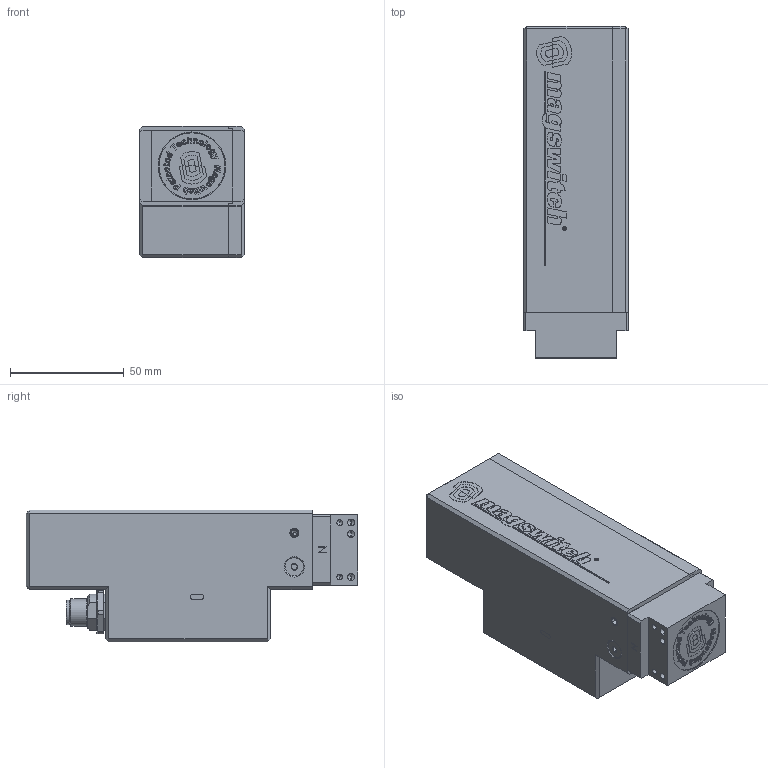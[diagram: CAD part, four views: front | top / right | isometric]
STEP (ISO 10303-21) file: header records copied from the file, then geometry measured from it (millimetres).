
FILE_DESCRIPTION (( 'STEP AP203' ), '1' );
FILE_NAME ('80151343_p.STEP', '2022-11-15T18:23:02', ( '' ), ( '' ), 'SwSTEP 2.0', 'SolidWorks 2018', '' );
FILE_SCHEMA (( 'CONFIG_CONTROL_DESIGN' ));
Products named in the file (2): 80151343_p
Bounding box: 46 x 146 x 58 mm (x, y, z)
Volume: 108182.4 mm3; surface area: 67099 mm2
Topology: 12 solids, 12 shells, 2868 faces, 7687 edges, 5044 vertices
Faces by surface type: plane 1417, bspline 931, cylinder 374, cone 126, torus 20
Entity records: 130704 total; most frequent: CARTESIAN_POINT 65877, ORIENTED_EDGE 15246, DIRECTION 10004, EDGE_CURVE 7623, VERTEX_POINT 5043, LINE 4758, VECTOR 4758, EDGE_LOOP 3156
